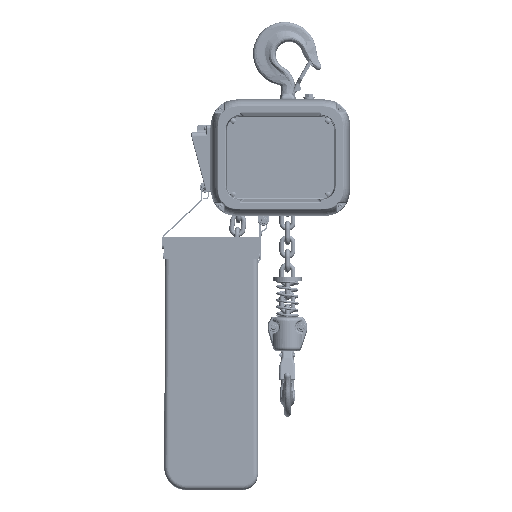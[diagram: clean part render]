
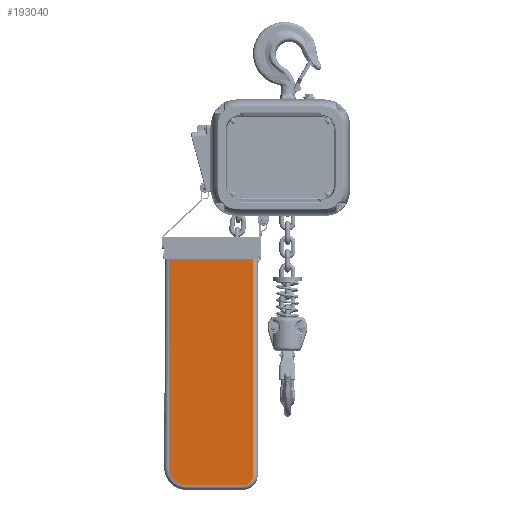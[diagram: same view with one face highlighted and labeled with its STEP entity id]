
A CAD part, top view. The second image highlights one B-rep face of the part: STEP entity #193040.
In plain terms, the highlighted planar face has unit normal (0, 0, 1).
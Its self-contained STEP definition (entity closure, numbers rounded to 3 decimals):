
#1871 = DIRECTION ( 'NONE',  ( 1., 0., 0. ) ) ;
#7869 = CARTESIAN_POINT ( 'NONE',  ( -56.875, -563.087, 105.125 ) ) ;
#12921 = DIRECTION ( 'NONE',  ( 0., 0., 1. ) ) ;
#13238 = VERTEX_POINT ( 'NONE', #151813 ) ;
#18987 = EDGE_CURVE ( 'NONE', #13238, #187633, #185323, .T. ) ;
#23424 = AXIS2_PLACEMENT_3D ( 'NONE', #97524, #185763, #142183 ) ;
#27441 = VECTOR ( 'NONE', #69478, 1000. ) ;
#28379 = CARTESIAN_POINT ( 'NONE',  ( 69.904, -563.087, 105.125 ) ) ;
#33226 = LINE ( 'NONE', #112303, #149915 ) ;
#44627 = VECTOR ( 'NONE', #148691, 1000. ) ;
#48436 = ORIENTED_EDGE ( 'NONE', *, *, #194359, .F. ) ;
#49130 = FACE_OUTER_BOUND ( 'NONE', #103490, .T. ) ;
#53320 = ORIENTED_EDGE ( 'NONE', *, *, #173111, .T. ) ;
#53476 = CARTESIAN_POINT ( 'NONE',  ( 95.125, -537.866, 105.125 ) ) ;
#55492 = CARTESIAN_POINT ( 'NONE',  ( 69.904, -537.866, 105.125 ) ) ;
#63008 = EDGE_CURVE ( 'NONE', #103693, #67808, #98838, .T. ) ;
#67322 = DIRECTION ( 'NONE',  ( 0., 0., 1. ) ) ;
#67808 = VERTEX_POINT ( 'NONE', #177425 ) ;
#69386 = VECTOR ( 'NONE', #129291, 1000. ) ;
#69478 = DIRECTION ( 'NONE',  ( 1., 0., 0. ) ) ;
#70619 = LINE ( 'NONE', #130517, #44627 ) ;
#70857 = AXIS2_PLACEMENT_3D ( 'NONE', #55492, #12921, #185129 ) ;
#73238 = EDGE_CURVE ( 'NONE', #198986, #13238, #70619, .T. ) ;
#84168 = ORIENTED_EDGE ( 'NONE', *, *, #18987, .T. ) ;
#97524 = CARTESIAN_POINT ( 'NONE',  ( -56.875, -523.087, 105.125 ) ) ;
#98838 = LINE ( 'NONE', #130286, #69386 ) ;
#103490 = EDGE_LOOP ( 'NONE', ( #53320, #106046, #48436, #187881, #84168, #173875 ) ) ;
#103693 = VERTEX_POINT ( 'NONE', #53476 ) ;
#106046 = ORIENTED_EDGE ( 'NONE', *, *, #63008, .T. ) ;
#112303 = CARTESIAN_POINT ( 'NONE',  ( 105.125, -50.013, 105.125 ) ) ;
#120141 = CARTESIAN_POINT ( 'NONE',  ( -95.189, -50.013, 105.125 ) ) ;
#129291 = DIRECTION ( 'NONE',  ( 0., 1., 0. ) ) ;
#130286 = CARTESIAN_POINT ( 'NONE',  ( 95.125, -50.013, 105.125 ) ) ;
#130517 = CARTESIAN_POINT ( 'NONE',  ( -96.875, -522.945, 105.125 ) ) ;
#132852 = VERTEX_POINT ( 'NONE', #28379 ) ;
#142183 = DIRECTION ( 'NONE',  ( 1., 0., 0. ) ) ;
#142425 = DIRECTION ( 'NONE',  ( 1., 0., 0. ) ) ;
#143429 = CARTESIAN_POINT ( 'NONE',  ( 105.125, -50.013, 105.125 ) ) ;
#144420 = PLANE ( 'NONE',  #195297 ) ;
#148691 = DIRECTION ( 'NONE',  ( -0.004, -1., 0. ) ) ;
#149915 = VECTOR ( 'NONE', #1871, 1000. ) ;
#151813 = CARTESIAN_POINT ( 'NONE',  ( -96.875, -522.945, 105.125 ) ) ;
#152753 = LINE ( 'NONE', #160749, #27441 ) ;
#158265 = CIRCLE ( 'NONE', #70857, 25.221 ) ;
#159410 = EDGE_CURVE ( 'NONE', #187633, #132852, #152753, .T. ) ;
#160749 = CARTESIAN_POINT ( 'NONE',  ( 69.904, -563.087, 105.125 ) ) ;
#173111 = EDGE_CURVE ( 'NONE', #132852, #103693, #158265, .T. ) ;
#173875 = ORIENTED_EDGE ( 'NONE', *, *, #159410, .T. ) ;
#177425 = CARTESIAN_POINT ( 'NONE',  ( 95.125, -50.013, 105.125 ) ) ;
#185129 = DIRECTION ( 'NONE',  ( 1., 0., 0. ) ) ;
#185323 = CIRCLE ( 'NONE', #23424, 40. ) ;
#185763 = DIRECTION ( 'NONE',  ( 0., 0., 1. ) ) ;
#187633 = VERTEX_POINT ( 'NONE', #7869 ) ;
#187881 = ORIENTED_EDGE ( 'NONE', *, *, #73238, .T. ) ;
#193040 = ADVANCED_FACE ( 'NONE', ( #49130 ), #144420, .T. ) ;
#194359 = EDGE_CURVE ( 'NONE', #198986, #67808, #33226, .T. ) ;
#195297 = AXIS2_PLACEMENT_3D ( 'NONE', #143429, #67322, #142425 ) ;
#198986 = VERTEX_POINT ( 'NONE', #120141 ) ;
